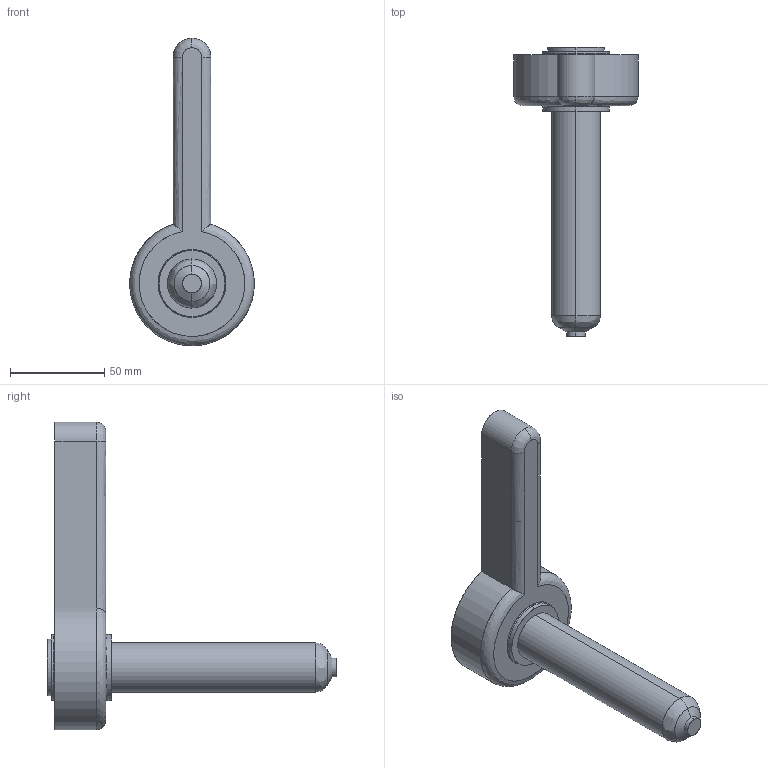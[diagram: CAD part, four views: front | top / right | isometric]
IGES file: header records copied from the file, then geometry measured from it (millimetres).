
Start section: SolidWorks IGES file using analytic representation for surfaces
Global section: file name: C:\Users\luca.EMPAD\Desktop\TEM\Sede UGBE3503-S-A C-119 L-151 P-0.IGS; native system: SolidWorks 2012; preprocessor: SolidWorks 2012; author: luca; date: 120330.142753; units: millimetre
Bounding box: 65.98 x 153.3 x 163 mm (x, y, z)
Surface area: 30393.5 mm2 (no closed solid volume)
Topology: 0 solids, 0 shells, 34 faces, 754 edges, 754 vertices
Faces by surface type: revolution 21, bspline 13
